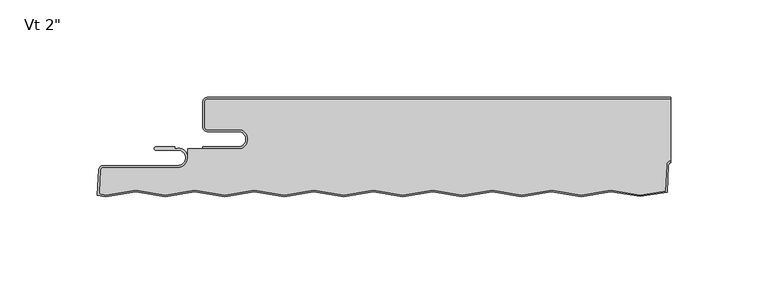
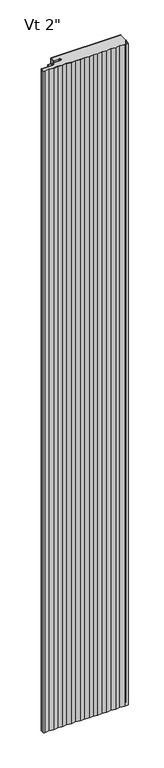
"""IFC4 building model written with IfcOpenShell, lengths in millimetres: plate geometry."""

from ifc_helpers import new_model, si_unit, point, frame, frame_2d, origin, origin_with_axes, place, context, project, spatial, polyline, circle_curve, trimmed, segment, composite_curve, outline, extrude, source, transform, mapped, element, save
from ifc_brep_helpers import plane_surface, cylinder_surface, revolved_surface, advanced_brep


def plate_76d2fa18(model_context):
    return source(origin(), model_context, "Body", "SolidModel", [
        extrude(outline(composite_curve([segment(polyline([(-117.2187498, -1.0), (120.4062498, -1.0), (120.4062498, -32.391556)]), True, "CONTINUOUS"), segment(trimmed(circle_curve(frame_2d((120.9323848, -34.925)), 2.5875), [point((120.4062498, -32.391556))], [point((118.3484309, -34.7895807))], True, "CARTESIAN"), True, "CONTINUOUS"), segment(polyline([(118.3484309, -34.7895807), (117.6552662, -48.01595), (104.8725002, -50.0611926), (89.8350676, -47.6552034), (74.5950676, -50.0936034), (59.3550676, -47.6552034), (44.1150676, -50.0936034), (28.8750676, -47.6552034), (13.6350676, -50.0936034), (-1.6049324, -47.6552034), (-16.8449324, -50.0936034), (-32.0849324, -47.6552034), (-47.3249324, -50.0936034), (-62.5649324, -47.6552034), (-77.8049324, -50.0936034), (-93.0449324, -47.6552034), (-108.2849324, -50.0936034), (-123.5249324, -47.6552034), (-138.7649324, -50.0936034), (-154.0049324, -47.6552034), (-169.2448974, -50.0933847), (-171.4974446, -49.7322508)]), True, "CONTINUOUS"), segment(trimmed(circle_curve(frame_2d((-171.0654253, -48.4195367)), 1.3819766), [point((-171.4974446, -49.7322508))], [point((-172.4454876, -48.346824))], False, "CARTESIAN"), True, "CONTINUOUS"), segment(polyline([(-172.4454876, -48.346824), (-171.8626615, -37.233961)]), True, "CONTINUOUS"), segment(trimmed(circle_curve(frame_2d((-170.4833045, -37.30625)), 1.38125), [point((-171.8626615, -37.233961))], [point((-170.4833045, -35.925))], False, "CARTESIAN"), True, "CONTINUOUS"), segment(polyline([(-170.4833045, -35.925), (-132.2999998, -35.925)]), True, "CONTINUOUS"), segment(trimmed(circle_curve(frame_2d((-132.2999998, -30.95625)), 4.96875), [point((-132.2999998, -35.925))], [point((-127.3312498, -30.95625))], True, "CARTESIAN"), True, "CONTINUOUS"), segment(polyline([(-127.3312498, -30.95625), (-127.3312498, -26.4), (-101.3437498, -26.4)]), True, "CONTINUOUS"), segment(trimmed(circle_curve(frame_2d((-101.3437498, -21.43125)), 4.96875), [point((-101.3437498, -26.4))], [point((-101.3437498, -16.4625))], True, "CARTESIAN"), True, "CONTINUOUS"), segment(polyline([(-101.3437498, -16.4625), (-117.2187498, -16.4625)]), True, "CONTINUOUS"), segment(trimmed(circle_curve(frame_2d((-117.2187498, -15.08125)), 1.38125), [point((-117.2187498, -16.4625))], [point((-118.5999998, -15.08125))], False, "CARTESIAN"), True, "CONTINUOUS"), segment(polyline([(-118.5999998, -15.08125), (-118.5999998, -2.38125)]), True, "CONTINUOUS"), segment(trimmed(circle_curve(frame_2d((-117.2187498, -2.38125)), 1.38125), [point((-118.5999998, -2.38125))], [point((-117.2187498, -1.0))], False, "CARTESIAN"), True, "CONTINUOUS")], self_intersect=False)), origin_with_axes(), (0.0, 0.0, 1.0), 2400.0),
        extrude(outline(composite_curve([segment(polyline([(-119.5999998, -25.4), (-101.3437498, -25.4)]), True, "CONTINUOUS"), segment(trimmed(circle_curve(frame_2d((-101.3437498, -21.43125)), 3.96875), [point((-101.3437498, -25.4))], [point((-101.3437498, -17.4625))], True, "CARTESIAN"), True, "CONTINUOUS"), segment(polyline([(-101.3437498, -17.4625), (-117.2187498, -17.4625)]), True, "CONTINUOUS"), segment(trimmed(circle_curve(frame_2d((-117.2187498, -15.08125)), 2.38125), [point((-117.2187498, -17.4625))], [point((-119.5999998, -15.08125))], False, "CARTESIAN"), True, "CONTINUOUS"), segment(polyline([(-119.5999998, -15.08125), (-119.5999998, -2.38125)]), True, "CONTINUOUS"), segment(trimmed(circle_curve(frame_2d((-117.2187498, -2.38125)), 2.38125), [point((-119.5999998, -2.38125))], [point((-117.2187498, 0.0))], False, "CARTESIAN"), True, "CONTINUOUS"), segment(polyline([(-117.2187498, 0.0), (120.4062498, 0.0), (120.4062498, -1.0), (-117.2187498, -1.0)]), True, "CONTINUOUS"), segment(trimmed(circle_curve(frame_2d((-117.2187498, -2.38125)), 1.38125), [point((-117.2187498, -1.0))], [point((-118.5999998, -2.38125))], True, "CARTESIAN"), True, "CONTINUOUS"), segment(polyline([(-118.5999998, -2.38125), (-118.5999998, -15.08125)]), True, "CONTINUOUS"), segment(trimmed(circle_curve(frame_2d((-117.2187498, -15.08125)), 1.38125), [point((-118.5999998, -15.08125))], [point((-117.2187498, -16.4625))], True, "CARTESIAN"), True, "CONTINUOUS"), segment(polyline([(-117.2187498, -16.4625), (-101.3437498, -16.4625)]), True, "CONTINUOUS"), segment(trimmed(circle_curve(frame_2d((-101.3437498, -21.43125)), 4.96875), [point((-101.3437498, -16.4625))], [point((-101.3437498, -26.4))], False, "CARTESIAN"), True, "CONTINUOUS"), segment(polyline([(-101.3437498, -26.4), (-119.5999998, -26.4), (-119.5999998, -25.4)]), True, "CONTINUOUS")], self_intersect=False)), origin_with_axes(), (0.0, 0.0, 1.0), 2400.0),
        advanced_brep(
        [(-143.6252048, -25.4, 2400.0), (-143.6252048, -26.9875, 2400.0), (-132.3142673, -26.9875, 2400.0), (-132.3142673, -34.925, 2400.0), (-170.4975719, -34.925, 2400.0), (-172.8755585, -37.181625, 2400.0), (-173.553306, -50.113818, 2400.0), (-169.2646685, -50.8, 2400.0), (-154.0246685, -48.3616, 2400.0), (-138.7846685, -50.8, 2400.0), (-123.5446685, -48.3616, 2400.0), (-108.3046685, -50.8, 2400.0), (-93.0646685, -48.3616, 2400.0), (-77.8246685, -50.8, 2400.0), (-62.5846685, -48.3616, 2400.0), (-47.3446685, -50.8, 2400.0), (-32.1046685, -48.3616, 2400.0), (-16.8646685, -50.8, 2400.0), (-1.6246685, -48.3616, 2400.0), (13.6153315, -50.8, 2400.0), (28.8553315, -48.3616, 2400.0), (44.0953315, -50.8, 2400.0), (59.3353315, -48.3616, 2400.0), (74.5753315, -50.8, 2400.0), (89.8153315, -48.3616, 2400.0), (104.9540478, -50.7837946, 2400.0), (118.6245136, -48.6289309, 2400.0), (119.3470604, -34.8419167, 2400.0), (120.4062498, -33.4272222, 2400.0), (120.4062498, -32.391556, 2400.0), (118.3484309, -34.7895807, 2400.0), (117.6681967, -47.7692225, 2400.0), (105.0553315, -49.7872809, 2400.0), (89.8153315, -47.3488809, 2400.0), (74.5753315, -49.7872809, 2400.0), (59.3353315, -47.3488809, 2400.0), (44.0953315, -49.7872809, 2400.0), (28.8553315, -47.3488809, 2400.0), (13.6153315, -49.7872809, 2400.0), (-1.6246685, -47.3488809, 2400.0), (-16.8646685, -49.7872809, 2400.0), (-32.1046685, -47.3488809, 2400.0), (-47.3446685, -49.7872809, 2400.0), (-62.5846685, -47.3488809, 2400.0), (-77.8246685, -49.7872809, 2400.0), (-93.0646685, -47.3488809, 2400.0), (-108.3046685, -49.7872809, 2400.0), (-123.5446685, -47.3488809, 2400.0), (-138.7846685, -49.7872809, 2400.0), (-154.0246685, -47.3488809, 2400.0), (-169.2646685, -49.7872809, 2400.0), (-172.5076276, -49.2684074, 2400.0), (-171.876929, -37.233961, 2400.0), (-170.4975719, -35.925, 2400.0), (-132.3142673, -35.925, 2400.0), (-132.3142673, -25.9875, 2400.0), (-133.9017673, -26.19375, 2400.0), (-133.9017673, -25.4, 2400.0), (-143.6252048, -25.4, 0.0), (-133.9017673, -25.4, 0.0), (-133.9017673, -26.19375, 0.0), (-132.3142673, -25.9875, 0.0), (-132.3142673, -35.925, 0.0), (-170.4975719, -35.925, 0.0), (-171.876929, -37.233961, 0.0), (-172.5076276, -49.2684074, 0.0), (-169.2646685, -49.7872809, 0.0), (-154.0246685, -47.3488809, 0.0), (-138.7846685, -49.7872809, 0.0), (-123.5446685, -47.3488809, 0.0), (-108.3046685, -49.7872809, 0.0), (-93.0646685, -47.3488809, 0.0), (-77.8246685, -49.7872809, 0.0), (-62.5846685, -47.3488809, 0.0), (-47.3446685, -49.7872809, 0.0), (-32.1046685, -47.3488809, 0.0), (-16.8646685, -49.7872809, 0.0), (-1.6246685, -47.3488809, 0.0), (13.6153315, -49.7872809, 0.0), (28.8553315, -47.3488809, 0.0), (44.0953315, -49.7872809, 0.0), (59.3353315, -47.3488809, 0.0), (74.5753315, -49.7872809, 0.0), (89.8153315, -47.3488809, 0.0), (104.9540478, -49.7710755, 0.0), (117.6681967, -47.7692225, 0.0), (118.3484309, -34.7895807, 0.0), (120.4062498, -32.391556, 0.0), (120.4062498, -33.4272222, 0.0), (119.3470604, -34.8419167, 0.0), (118.6245136, -48.6289309, 0.0), (105.0553315, -50.8, 0.0), (89.8153315, -48.3616, 0.0), (74.5753315, -50.8, 0.0), (59.3353315, -48.3616, 0.0), (44.0953315, -50.8, 0.0), (28.8553315, -48.3616, 0.0), (13.6153315, -50.8, 0.0), (-1.6246685, -48.3616, 0.0), (-16.8646685, -50.8, 0.0), (-32.1046685, -48.3616, 0.0), (-47.3446685, -50.8, 0.0), (-62.5846685, -48.3616, 0.0), (-77.8246685, -50.8, 0.0), (-93.0646685, -48.3616, 0.0), (-108.3046685, -50.8, 0.0), (-123.5446685, -48.3616, 0.0), (-138.7846685, -50.8, 0.0), (-154.0246685, -48.3616, 0.0), (-169.2646685, -50.8, 0.0), (-173.553306, -50.113818, 0.0), (-172.8755585, -37.181625, 0.0), (-170.4975719, -34.925, 0.0), (-132.3142673, -34.925, 0.0), (-132.3142673, -26.9875, 0.0), (-143.6252048, -26.9875, 0.0)],
        [
            (0, 1, circle_curve(frame((-143.6252048, -26.19375, 2400.0), z_axis=(0.0, 0.0, 1.0), x_axis=(1.0, 0.0, 0.0)), 0.79375)),
            (1, 2),
            (2, 3, circle_curve(frame((-132.3142673, -30.95625, 2400.0), z_axis=(0.0, 0.0, -1.0), x_axis=(1.0, 0.0, 0.0)), 3.96875)),
            (3, 4),
            (4, 5, circle_curve(frame((-170.4975719, -37.30625, 2400.0), z_axis=(0.0, 0.0, 1.0), x_axis=(1.0, 0.0, 0.0)), 2.38125)),
            (5, 6),
            (6, 7),
            (7, 8),
            (8, 9),
            (9, 10),
            (10, 11),
            (11, 12),
            (12, 13),
            (13, 14),
            (14, 15),
            (15, 16),
            (16, 17),
            (17, 18),
            (18, 19),
            (19, 20),
            (20, 21),
            (21, 22),
            (22, 23),
            (23, 24),
            (24, 25),
            (25, 26),
            (26, 27),
            (27, 28, circle_curve(frame((120.9323848, -34.925, 2400.0), z_axis=(0.0, 0.0, -1.0), x_axis=(1.0, 0.0, 0.0)), 1.5875)),
            (28, 29),
            (29, 30, circle_curve(frame((120.9323848, -34.925, 2400.0), z_axis=(0.0, 0.0, 1.0), x_axis=(1.0, 0.0, 0.0)), 2.5875)),
            (30, 31),
            (31, 32),
            (32, 33),
            (33, 34),
            (34, 35),
            (35, 36),
            (36, 37),
            (37, 38),
            (38, 39),
            (39, 40),
            (40, 41),
            (41, 42),
            (42, 43),
            (43, 44),
            (44, 45),
            (45, 46),
            (46, 47),
            (47, 48),
            (48, 49),
            (49, 50),
            (50, 51),
            (51, 52),
            (52, 53, circle_curve(frame((-170.4975719, -37.30625, 2400.0), z_axis=(0.0, 0.0, -1.0), x_axis=(1.0, 0.0, 0.0)), 1.38125)),
            (53, 54),
            (54, 55, circle_curve(frame((-132.3142673, -30.95625, 2400.0), z_axis=(0.0, 0.0, 1.0), x_axis=(1.0, 0.0, 0.0)), 4.96875)),
            (55, 56),
            (56, 57),
            (57, 0),
            (58, 59),
            (59, 60),
            (60, 61),
            (61, 62, circle_curve(frame((-132.3142673, -30.95625, 0.0), z_axis=(0.0, 0.0, -1.0), x_axis=(1.0, 0.0, 0.0)), 4.96875)),
            (62, 63),
            (63, 64, circle_curve(frame((-170.4975719, -37.30625, 0.0), z_axis=(0.0, 0.0, 1.0), x_axis=(1.0, 0.0, 0.0)), 1.38125)),
            (64, 65),
            (65, 66),
            (66, 67),
            (67, 68),
            (68, 69),
            (69, 70),
            (70, 71),
            (71, 72),
            (72, 73),
            (73, 74),
            (74, 75),
            (75, 76),
            (76, 77),
            (77, 78),
            (78, 79),
            (79, 80),
            (80, 81),
            (81, 82),
            (82, 83),
            (83, 84),
            (84, 85),
            (85, 86),
            (86, 87, circle_curve(frame((120.9323848, -34.925, 0.0), z_axis=(0.0, 0.0, -1.0), x_axis=(1.0, 0.0, 0.0)), 2.5875)),
            (87, 88),
            (88, 89, circle_curve(frame((120.9323848, -34.925, 0.0), z_axis=(0.0, 0.0, 1.0), x_axis=(1.0, 0.0, 0.0)), 1.5875)),
            (89, 90),
            (90, 91),
            (91, 92),
            (92, 93),
            (93, 94),
            (94, 95),
            (95, 96),
            (96, 97),
            (97, 98),
            (98, 99),
            (99, 100),
            (100, 101),
            (101, 102),
            (102, 103),
            (103, 104),
            (104, 105),
            (105, 106),
            (106, 107),
            (107, 108),
            (108, 109),
            (109, 110),
            (110, 111),
            (111, 112, circle_curve(frame((-170.4975719, -37.30625, 0.0), z_axis=(0.0, 0.0, -1.0), x_axis=(1.0, 0.0, 0.0)), 2.38125)),
            (112, 113),
            (113, 114, circle_curve(frame((-132.3142673, -30.95625, 0.0), z_axis=(0.0, 0.0, 1.0), x_axis=(1.0, 0.0, 0.0)), 3.96875)),
            (114, 115),
            (115, 58, circle_curve(frame((-143.6252048, -26.19375, 0.0), z_axis=(0.0, 0.0, -1.0), x_axis=(1.0, 0.0, 0.0)), 0.79375)),
            (57, 59),
            (58, 0),
            (115, 1),
            (114, 2),
            (113, 3),
            (112, 4),
            (111, 5),
            (110, 6),
            (88, 28),
            (27, 89),
            (52, 64),
            (63, 53),
            (51, 65),
            (29, 87),
            (86, 30),
            (62, 54),
            (61, 55),
            (56, 60),
            (26, 90),
            (85, 31),
            (24, 92),
            (91, 25),
            (32, 84),
            (83, 33),
            (82, 34),
            (81, 35),
            (80, 36),
            (45, 71),
            (70, 46),
            (69, 47),
            (68, 48),
            (67, 49),
            (44, 72),
            (43, 73),
            (42, 74),
            (41, 75),
            (40, 76),
            (39, 77),
            (38, 78),
            (37, 79),
            (66, 50),
            (109, 7),
            (108, 8),
            (107, 9),
            (106, 10),
            (105, 11),
            (104, 12),
            (103, 13),
            (102, 14),
            (101, 15),
            (100, 16),
            (99, 17),
            (98, 18),
            (21, 95),
            (94, 22),
            (93, 23),
            (20, 96),
            (19, 97),
        ],
        [
            plane_surface(frame((32.0062502, -50.8, 2400.0), z_axis=(0.0, 0.0, 1.0), x_axis=(0.0, -1.0, 0.0))),
            plane_surface(frame((32.0062502, -50.8, 0.0), z_axis=(0.0, 0.0, -1.0), x_axis=(0.0, -1.0, 0.0))),
            plane_surface(frame((-143.6252048, -25.4, 2400.0), z_axis=(0.0, 1.0, 0.0), x_axis=(0.0, 0.0, -1.0))),
            cylinder_surface(frame((-143.6252048, -26.19375, 2400.0), z_axis=(0.0, 0.0, 1.0), x_axis=(1.0, 0.0, 0.0)), 0.79375),
            plane_surface(frame((-132.3142673, -26.9875, 2400.0), z_axis=(0.0, -1.0, 0.0), x_axis=(0.0, 0.0, -1.0))),
            revolved_surface(polyline([(-128.3455173, -30.95625, 0.0), (-128.3455173, -30.95625, 2400.0)]), (-132.3142673, -30.95625, 2400.0), (0.0, 0.0, -1.0)),
            plane_surface(frame((-170.4975719, -34.925, 2400.0), z_axis=(0.0, 1.0, 0.0), x_axis=(0.0, 0.0, -1.0))),
            cylinder_surface(frame((-170.4975719, -37.30625, 2400.0), z_axis=(0.0, 0.0, 1.0), x_axis=(1.0, 0.0, 0.0)), 2.38125),
            plane_surface(frame((-173.553306, -50.113818, 2400.0), z_axis=(-0.9986295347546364, 0.05233595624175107, 0.0), x_axis=(0.0, 0.0, -1.0))),
            revolved_surface(polyline([(122.5198848, -34.925, 0.0), (122.5198848, -34.925, 2400.0)]), (120.9323848, -34.925, 2400.0), (0.0, 0.0, -1.0)),
            revolved_surface(polyline([(-169.1163219, -37.30625, 0.0), (-169.1163219, -37.30625, 2400.0)]), (-170.4975719, -37.30625, 2400.0), (0.0, 0.0, -1.0)),
            plane_surface(frame((-171.876929, -37.233961, 2400.0), z_axis=(0.9986295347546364, -0.05233595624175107, 0.0), x_axis=(0.0, 0.0, -1.0))),
            cylinder_surface(frame((120.9323848, -34.925, 2400.0), z_axis=(0.0, 0.0, 1.0), x_axis=(1.0, 0.0, 0.0)), 2.5875),
            plane_surface(frame((-132.3142673, -35.925, 2400.0), z_axis=(0.0, -1.0, 0.0), x_axis=(0.0, 0.0, -1.0))),
            cylinder_surface(frame((-132.3142673, -30.95625, 2400.0), z_axis=(0.0, 0.0, 1.0), x_axis=(1.0, 0.0, 0.0)), 4.96875),
            plane_surface(frame((-133.9017673, -25.4, 2400.0), z_axis=(1.0, 0.0, 0.0), x_axis=(0.0, 0.0, -1.0))),
            plane_surface(frame((-133.9017673, -26.19375, 2400.0), z_axis=(-0.12883844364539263, 0.9916655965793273, 0.0), x_axis=(0.0, 0.0, -1.0))),
            plane_surface(frame((119.3470604, -34.8419167, 2400.0), z_axis=(0.9986295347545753, -0.052335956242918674, 0.0), x_axis=(0.0, 0.0, -1.0))),
            plane_surface(frame((117.6681967, -47.7692225, 2400.0), z_axis=(-0.9986295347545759, 0.05233595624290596, 0.0), x_axis=(0.0, 0.0, -1.0))),
            plane_surface(frame((104.9540478, -50.7837946, 2400.0), z_axis=(-0.15799050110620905, -0.9874406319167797, 0.0), x_axis=(0.0, 0.0, -1.0))),
            plane_surface(frame((89.8153315, -47.3488809, 2400.0), z_axis=(0.15799050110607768, 0.9874406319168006, 0.0), x_axis=(0.0, 0.0, -1.0))),
            plane_surface(frame((74.5753315, -49.7872809, 2400.0), z_axis=(-0.15799050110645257, 0.9874406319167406, 0.0), x_axis=(0.0, 0.0, -1.0))),
            plane_surface(frame((59.3353315, -47.3488809, 2400.0), z_axis=(0.157990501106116, 0.9874406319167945, 0.0), x_axis=(0.0, 0.0, -1.0))),
            plane_surface(frame((44.0953315, -49.7872809, 2400.0), z_axis=(-0.15799050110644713, 0.9874406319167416, 0.0), x_axis=(0.0, 0.0, -1.0))),
            plane_surface(frame((-108.3046685, -49.7872809, 2400.0), z_axis=(-0.15799050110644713, 0.9874406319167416, 0.0), x_axis=(0.0, 0.0, -1.0))),
            plane_surface(frame((-123.5446685, -47.3488809, 2400.0), z_axis=(0.15799050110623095, 0.9874406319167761, 0.0), x_axis=(0.0, 0.0, -1.0))),
            plane_surface(frame((-138.7846685, -49.7872809, 2400.0), z_axis=(-0.15799050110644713, 0.9874406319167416, 0.0), x_axis=(0.0, 0.0, -1.0))),
            plane_surface(frame((-154.0246685, -47.3488809, 2400.0), z_axis=(0.157990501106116, 0.9874406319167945, 0.0), x_axis=(0.0, 0.0, -1.0))),
            plane_surface(frame((-93.0646685, -47.3488809, 2400.0), z_axis=(0.15799050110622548, 0.987440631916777, 0.0), x_axis=(0.0, 0.0, -1.0))),
            plane_surface(frame((-77.8246685, -49.7872809, 2400.0), z_axis=(-0.15799050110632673, 0.9874406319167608, 0.0), x_axis=(0.0, 0.0, -1.0))),
            plane_surface(frame((-62.5846685, -47.3488809, 2400.0), z_axis=(0.15799050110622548, 0.987440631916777, 0.0), x_axis=(0.0, 0.0, -1.0))),
            plane_surface(frame((-47.3446685, -49.7872809, 2400.0), z_axis=(-0.15799050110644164, 0.9874406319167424, 0.0), x_axis=(0.0, 0.0, -1.0))),
            plane_surface(frame((-32.1046685, -47.3488809, 2400.0), z_axis=(0.15799050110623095, 0.9874406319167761, 0.0), x_axis=(0.0, 0.0, -1.0))),
            plane_surface(frame((-16.8646685, -49.7872809, 2400.0), z_axis=(-0.15799050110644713, 0.9874406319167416, 0.0), x_axis=(0.0, 0.0, -1.0))),
            plane_surface(frame((-1.6246685, -47.3488809, 2400.0), z_axis=(0.157990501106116, 0.9874406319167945, 0.0), x_axis=(0.0, 0.0, -1.0))),
            plane_surface(frame((13.6153315, -49.7872809, 2400.0), z_axis=(-0.15799050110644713, 0.9874406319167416, 0.0), x_axis=(0.0, 0.0, -1.0))),
            plane_surface(frame((28.8553315, -47.3488809, 2400.0), z_axis=(0.15799050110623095, 0.9874406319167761, 0.0), x_axis=(0.0, 0.0, -1.0))),
            plane_surface(frame((-169.2646685, -49.7872809, 2400.0), z_axis=(-0.15799050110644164, 0.9874406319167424, 0.0), x_axis=(0.0, 0.0, -1.0))),
            plane_surface(frame((-172.5076276, -49.2684074, 2400.0), z_axis=(0.1579905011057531, 0.9874406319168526, 0.0), x_axis=(0.0, 0.0, -1.0))),
            plane_surface(frame((-169.2646685, -50.8, 2400.0), z_axis=(-0.15799050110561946, -0.9874406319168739, 0.0), x_axis=(0.0, 0.0, -1.0))),
            plane_surface(frame((-154.0246685, -48.3616, 2400.0), z_axis=(0.15799050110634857, -0.9874406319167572, 0.0), x_axis=(0.0, 0.0, -1.0))),
            plane_surface(frame((-138.7846685, -50.8, 2400.0), z_axis=(-0.15799050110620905, -0.9874406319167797, 0.0), x_axis=(0.0, 0.0, -1.0))),
            plane_surface(frame((-123.5446685, -48.3616, 2400.0), z_axis=(0.15799050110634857, -0.9874406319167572, 0.0), x_axis=(0.0, 0.0, -1.0))),
            plane_surface(frame((-108.3046685, -50.8, 2400.0), z_axis=(-0.15799050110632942, -0.9874406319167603, 0.0), x_axis=(0.0, 0.0, -1.0))),
            plane_surface(frame((-93.0646685, -48.3616, 2400.0), z_axis=(0.15799050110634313, -0.9874406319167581, 0.0), x_axis=(0.0, 0.0, -1.0))),
            plane_surface(frame((-77.8246685, -50.8, 2400.0), z_axis=(-0.15799050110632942, -0.9874406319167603, 0.0), x_axis=(0.0, 0.0, -1.0))),
            plane_surface(frame((-62.5846685, -48.3616, 2400.0), z_axis=(0.1579905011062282, -0.9874406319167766, 0.0), x_axis=(0.0, 0.0, -1.0))),
            plane_surface(frame((-47.3446685, -50.8, 2400.0), z_axis=(-0.15799050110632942, -0.9874406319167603, 0.0), x_axis=(0.0, 0.0, -1.0))),
            plane_surface(frame((-32.1046685, -48.3616, 2400.0), z_axis=(0.15799050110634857, -0.9874406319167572, 0.0), x_axis=(0.0, 0.0, -1.0))),
            plane_surface(frame((-16.8646685, -50.8, 2400.0), z_axis=(-0.15799050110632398, -0.9874406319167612, 0.0), x_axis=(0.0, 0.0, -1.0))),
            plane_surface(frame((-1.6246685, -48.3616, 2400.0), z_axis=(0.15799050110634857, -0.9874406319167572, 0.0), x_axis=(0.0, 0.0, -1.0))),
            plane_surface(frame((59.3353315, -48.3616, 2400.0), z_axis=(0.15799050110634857, -0.9874406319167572, 0.0), x_axis=(0.0, 0.0, -1.0))),
            plane_surface(frame((74.5753315, -50.8, 2400.0), z_axis=(-0.15799050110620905, -0.9874406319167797, 0.0), x_axis=(0.0, 0.0, -1.0))),
            plane_surface(frame((89.8153315, -48.3616, 2400.0), z_axis=(0.15799050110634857, -0.9874406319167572, 0.0), x_axis=(0.0, 0.0, -1.0))),
            plane_surface(frame((44.0953315, -50.8, 2400.0), z_axis=(-0.15799050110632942, -0.9874406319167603, 0.0), x_axis=(0.0, 0.0, -1.0))),
            plane_surface(frame((28.8553315, -48.3616, 2400.0), z_axis=(0.15799050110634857, -0.9874406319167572, 0.0), x_axis=(0.0, 0.0, -1.0))),
            plane_surface(frame((13.6153315, -50.8, 2400.0), z_axis=(-0.15799050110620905, -0.9874406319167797, 0.0), x_axis=(0.0, 0.0, -1.0))),
            plane_surface(frame((118.6245136, -48.6289309, 2400.0), z_axis=(0.15799050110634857, -0.9874406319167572, 0.0), x_axis=(0.0, 0.0, -1.0))),
            plane_surface(frame((105.0553315, -49.7872809, 2400.0), z_axis=(-0.15799050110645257, 0.9874406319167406, 0.0), x_axis=(0.0, 0.0, -1.0))),
            plane_surface(frame((120.4062498, -60.8, 2400.0), z_axis=(1.0, 0.0, 0.0), x_axis=(0.0, 0.0, -1.0))),
        ],
        [
            (0, [[1, 2, 3, 4, 5, 6, 7, 8, 9, 10, 11, 12, 13, 14, 15, 16, 17, 18, 19, 20, 21, 22, 23, 24, 25, 26, 27, 28, 29, 30, 31, 32, 33, 34, 35, 36, 37, 38, 39, 40, 41, 42, 43, 44, 45, 46, 47, 48, 49, 50, 51, 52, 53, 54, 55, 56, 57, 58]]),
            (1, [[59, 60, 61, 62, 63, 64, 65, 66, 67, 68, 69, 70, 71, 72, 73, 74, 75, 76, 77, 78, 79, 80, 81, 82, 83, 84, 85, 86, 87, 88, 89, 90, 91, 92, 93, 94, 95, 96, 97, 98, 99, 100, 101, 102, 103, 104, 105, 106, 107, 108, 109, 110, 111, 112, 113, 114, 115, 116]]),
            (2, [[117, -59, 118, -58]]),
            (3, [[-118, -116, 119, -1]]),
            (4, [[-119, -115, 120, -2]]),
            (5, [[-120, -114, 121, -3]]),
            (6, [[-121, -113, 122, -4]]),
            (7, [[-122, -112, 123, -5]]),
            (8, [[-123, -111, 124, -6]]),
            (9, [[-89, 125, -28, 126]]),
            (10, [[127, -64, 128, -53]]),
            (11, [[129, -65, -127, -52]]),
            (12, [[-30, 130, -87, 131]]),
            (13, [[-128, -63, 132, -54]]),
            (14, [[-132, -62, 133, -55]]),
            (15, [[134, -60, -117, -57]]),
            (16, [[-133, -61, -134, -56]]),
            (17, [[135, -90, -126, -27]]),
            (18, [[-131, -86, 136, -31]]),
            (19, [[137, -92, 138, -25]]),
            (20, [[139, -84, 140, -33]]),
            (21, [[-140, -83, 141, -34]]),
            (22, [[-141, -82, 142, -35]]),
            (23, [[-142, -81, 143, -36]]),
            (24, [[144, -71, 145, -46]]),
            (25, [[-145, -70, 146, -47]]),
            (26, [[-146, -69, 147, -48]]),
            (27, [[-147, -68, 148, -49]]),
            (28, [[149, -72, -144, -45]]),
            (29, [[150, -73, -149, -44]]),
            (30, [[151, -74, -150, -43]]),
            (31, [[152, -75, -151, -42]]),
            (32, [[153, -76, -152, -41]]),
            (33, [[154, -77, -153, -40]]),
            (34, [[155, -78, -154, -39]]),
            (35, [[156, -79, -155, -38]]),
            (36, [[-143, -80, -156, -37]]),
            (37, [[-148, -67, 157, -50]]),
            (38, [[-157, -66, -129, -51]]),
            (39, [[-124, -110, 158, -7]]),
            (40, [[-158, -109, 159, -8]]),
            (41, [[-159, -108, 160, -9]]),
            (42, [[-160, -107, 161, -10]]),
            (43, [[-161, -106, 162, -11]]),
            (44, [[-162, -105, 163, -12]]),
            (45, [[-163, -104, 164, -13]]),
            (46, [[-164, -103, 165, -14]]),
            (47, [[-165, -102, 166, -15]]),
            (48, [[-166, -101, 167, -16]]),
            (49, [[-167, -100, 168, -17]]),
            (50, [[-168, -99, 169, -18]]),
            (51, [[170, -95, 171, -22]]),
            (52, [[-171, -94, 172, -23]]),
            (53, [[-172, -93, -137, -24]]),
            (54, [[173, -96, -170, -21]]),
            (55, [[174, -97, -173, -20]]),
            (56, [[-169, -98, -174, -19]]),
            (57, [[-138, -91, -135, -26]]),
            (58, [[-136, -85, -139, -32]]),
            (59, [[-125, -88, -130, -29]]),
        ],
    ),
    ])


if __name__ == "__main__":
    model = new_model("IFC4")
    model_context = context("Model", 3, world=origin())
    ifc_project = project(units=[si_unit("LENGTHUNIT", "METRE", prefix="MILLI")], contexts=[model_context])
    site = spatial("IfcSite", under=ifc_project)
    building = spatial("IfcBuilding", under=site)
    placement = place(None, origin())
    plate_shape = plate_76d2fa18(model_context)
    element("IfcPlate", 1, ObjectType="KIP-12-DWHR-R19-CP-Vt-S : Vt 2\"", at=placement, inside=building, context=model_context, shape_type="MappedRepresentation", body=[
        mapped(plate_shape, transform((0.0, 0.0, 0.0), x_axis=(1.0, 0.0, 0.0), y_axis=(0.0, 1.0, 0.0), z_axis=(0.0, 0.0, 1.0))),
    ])
    save(model, "model.ifc")
